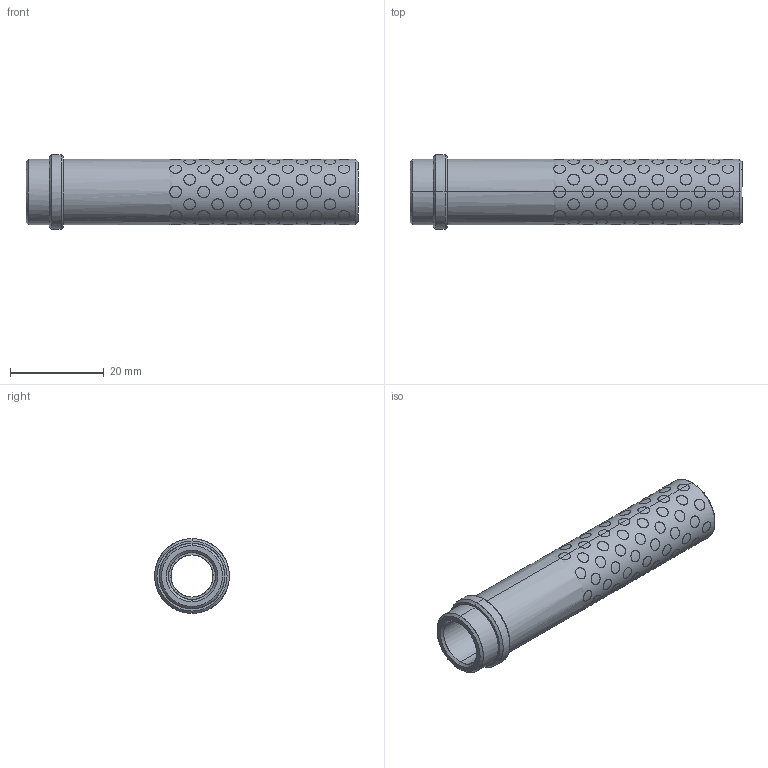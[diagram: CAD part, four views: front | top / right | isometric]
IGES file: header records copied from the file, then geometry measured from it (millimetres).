
Start section: START RECORD GO HERE.
Global section: file name: G31209066.igs; native system: DASSAULT SYSTEMES CATIA V5 R20 - www.3ds.com; preprocessor: CATIA Version 5 Release 20 ; author: r.borello; organization: CFTORINO; date: 20190624.122219; units: millimetre
Bounding box: 71 x 16 x 16 mm (x, y, z)
Surface area: 9552.9 mm2 (no closed solid volume)
Topology: 0 solids, 0 shells, 679 faces, 2940 edges, 2940 vertices
Faces by surface type: revolution 674, plane 5
